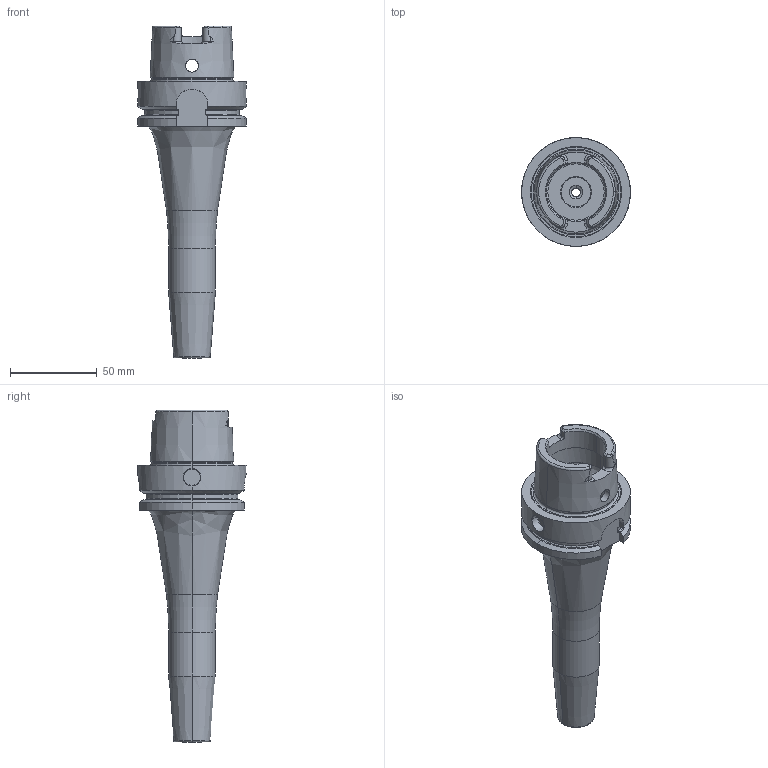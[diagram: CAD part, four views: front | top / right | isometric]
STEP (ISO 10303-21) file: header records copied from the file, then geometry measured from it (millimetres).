
FILE_DESCRIPTION (( 'STEP AP214' ), '1' );
FILE_NAME ('RHSK63ASF0312630.STEP', '2019-02-28T20:19:53', ( '' ), ( '' ), 'SwSTEP 2.0', 'SolidWorks 2019', '' );
FILE_SCHEMA (( 'AUTOMOTIVE_DESIGN' ));
Length unit declared in the file: inch
Products named in the file (2): RHSK63ASF0312630
Bounding box: 62.94 x 62.94 x 191.9 mm (x, y, z)
Volume: 173335.6 mm3; surface area: 36915.4 mm2
Topology: 1 solids, 1 shells, 173 faces, 432 edges, 264 vertices
Faces by surface type: cylinder 54, plane 49, cone 39, torus 29, bspline 2
Entity records: 8219 total; most frequent: CARTESIAN_POINT 1837, DIRECTION 871, ORIENTED_EDGE 864, EDGE_CURVE 432, AXIS2_PLACEMENT_3D 356, VERTEX_POINT 264, CIRCLE 183, EDGE_LOOP 182
